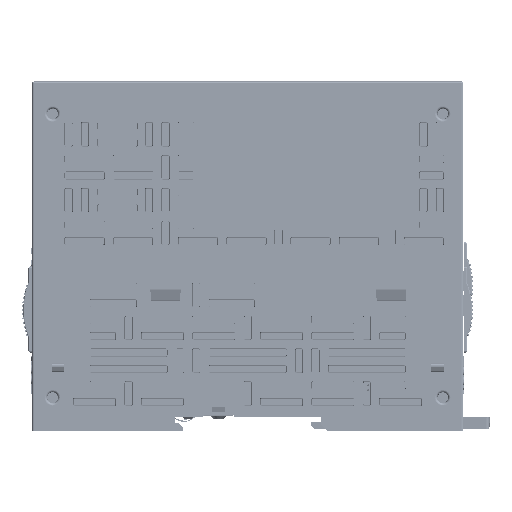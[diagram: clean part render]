
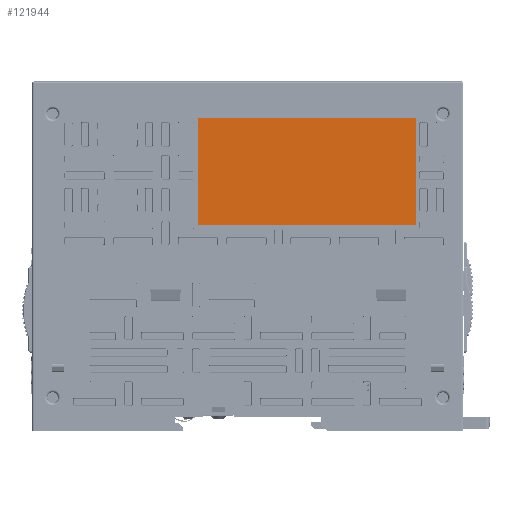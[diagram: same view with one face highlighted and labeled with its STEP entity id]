
A CAD part, left-side view. The second image highlights one B-rep face of the part: STEP entity #121944.
In plain terms, the highlighted planar face has unit normal (-1, 0, 0).
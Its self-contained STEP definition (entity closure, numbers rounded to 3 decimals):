
#84236=DIRECTION('',(0.,0.,-1.));
#84237=VECTOR('',#84236,26.);
#84238=CARTESIAN_POINT('',(-22.,12.,76.));
#84239=LINE('',#84238,#84237);
#84240=DIRECTION('',(0.,1.,0.));
#84241=VECTOR('',#84240,53.);
#84242=CARTESIAN_POINT('',(-22.,-41.,76.));
#84243=LINE('',#84242,#84241);
#84244=DIRECTION('',(0.,0.,1.));
#84245=VECTOR('',#84244,26.);
#84246=CARTESIAN_POINT('',(-22.,-41.,50.));
#84247=LINE('',#84246,#84245);
#84248=DIRECTION('',(0.,-1.,0.));
#84249=VECTOR('',#84248,53.);
#84250=CARTESIAN_POINT('',(-22.,12.,50.));
#84251=LINE('',#84250,#84249);
#99563=CARTESIAN_POINT('',(-22.,12.,76.));
#99564=CARTESIAN_POINT('',(-22.,12.,50.));
#99565=VERTEX_POINT('',#99563);
#99566=VERTEX_POINT('',#99564);
#99567=CARTESIAN_POINT('',(-22.,-41.,50.));
#99568=VERTEX_POINT('',#99567);
#99569=CARTESIAN_POINT('',(-22.,-41.,76.));
#99570=VERTEX_POINT('',#99569);
#121933=CARTESIAN_POINT('',(-22.,0.,85.));
#121934=DIRECTION('',(-1.,0.,0.));
#121935=DIRECTION('',(0.,-1.,0.));
#121936=AXIS2_PLACEMENT_3D('',#121933,#121934,#121935);
#121937=PLANE('',#121936);
#121938=ORIENTED_EDGE('',*,*,#121885,.F.);
#121939=ORIENTED_EDGE('',*,*,#121900,.F.);
#121940=ORIENTED_EDGE('',*,*,#121914,.F.);
#121941=ORIENTED_EDGE('',*,*,#121927,.F.);
#121942=EDGE_LOOP('',(#121938,#121939,#121940,#121941));
#121943=FACE_OUTER_BOUND('',#121942,.F.);
#121944=ADVANCED_FACE('',(#121943),#121937,.T.);
#121885=EDGE_CURVE('',#99565,#99566,#84239,.T.);
#121900=EDGE_CURVE('',#99570,#99565,#84243,.T.);
#121914=EDGE_CURVE('',#99568,#99570,#84247,.T.);
#121927=EDGE_CURVE('',#99566,#99568,#84251,.T.);
